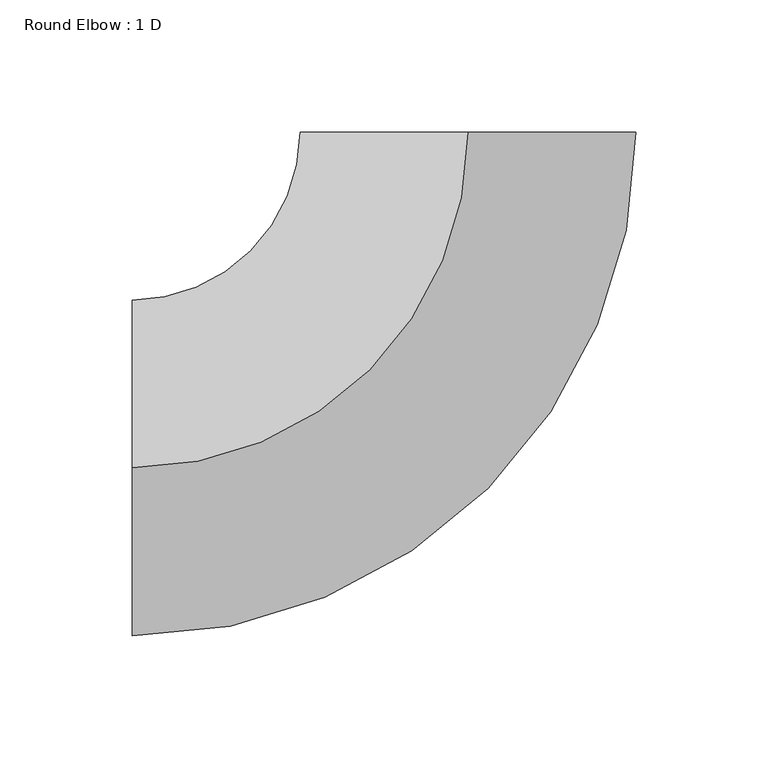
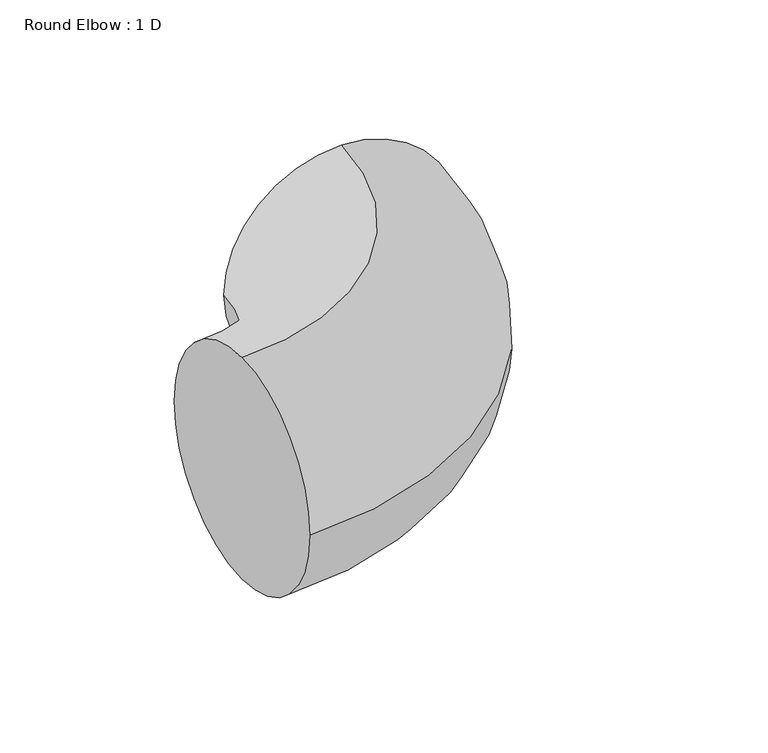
"""IFC4 building model written with IfcOpenShell, lengths in millimetres: duct fitting geometry, Round Elbow : 1 D."""

import ifcopenshell
import ifcopenshell.guid

model = None  # the IFC model being written
_history = None  # IfcOwnerHistory: only IFC2X3 demands one
_inside = {}  # id of a spatial element -> (the spatial element, [elements in it])
_under = {}  # id of a project, library or spatial element -> (it, [spatial elements below it])
_declared = {}  # id of a project -> (the project, [libraries it declares])
_typed = {}  # id of a type object -> (the type object, [elements of that type])
_made_of = {}  # id of a material, layer set ... -> (it, [elements and type objects made of it])


def new_model(schema):
    """Start an empty IFC model of exactly this schema.

    Asked for "IFC4X3", IfcOpenShell would pick the latest addendum, in which some entities
    have other attributes; the version numbers below select the first issue.
    IFC2X3 requires an IfcOwnerHistory on every rooted entity: one is made here for all.
    """
    global model, _history
    if schema == "IFC4X3":
        model = ifcopenshell.file(schema_version=(4, 3, 0, 0))
    else:
        model = ifcopenshell.file(schema=schema)
    _inside.clear()
    _under.clear()
    _declared.clear()
    _typed.clear()
    _made_of.clear()
    _history = None
    if model.schema == "IFC2X3":
        org = make("IfcOrganization", Name="unknown")
        user = make(
            "IfcPersonAndOrganization",
            ThePerson=make("IfcPerson", FamilyName="unknown"),
            TheOrganization=org,
        )
        app = make(
            "IfcApplication",
            ApplicationDeveloper=org,
            Version="unknown",
            ApplicationFullName="unknown",
            ApplicationIdentifier="unknown",
        )
        _history = make(
            "IfcOwnerHistory",
            OwningUser=user,
            OwningApplication=app,
            ChangeAction="ADDED",
            CreationDate=0,
        )
    return model


def make(cls, **values):
    """One entity of the class cls with the attributes given. An attribute that is None is left unset."""
    return model.create_entity(
        cls, **{name: value for name, value in values.items() if value is not None}
    )


def rooted(cls, **values):
    """An entity with a GlobalId (a new one), such as an element, a storey or a relation."""
    return make(cls, GlobalId=ifcopenshell.guid.new(), OwnerHistory=_history, **values)


def si_unit(unit_type, name, prefix=None):
    """IfcSIUnit, for example si_unit("LENGTHUNIT", "METRE", prefix="MILLI")."""
    return make("IfcSIUnit", UnitType=unit_type, Prefix=prefix, Name=name)


def assignment(units):
    """IfcUnitAssignment: the units of a project."""
    return None if units is None else make("IfcUnitAssignment", Units=units)


def point(xyz):
    """IfcCartesianPoint."""
    return None if xyz is None else make("IfcCartesianPoint", Coordinates=xyz)


def direction(xyz):
    """IfcDirection."""
    return None if xyz is None else make("IfcDirection", DirectionRatios=xyz)


def frame(location, z_axis=None, x_axis=None):
    """IfcAxis2Placement3D, a coordinate frame: its origin and axes. An axis left out is left unset."""
    return make(
        "IfcAxis2Placement3D",
        Location=point(location),
        Axis=direction(z_axis),
        RefDirection=direction(x_axis),
    )


def origin():
    """The frame at (0, 0, 0) with its axes left unset."""
    return frame((0.0, 0.0, 0.0))


def place(relative_to, where):
    """IfcLocalPlacement: puts the frame where relative to a parent placement (None: the world)."""
    return make(
        "IfcLocalPlacement", PlacementRelTo=relative_to, RelativePlacement=where
    )


def context(
    kind, dimensions, precision=None, world=None, true_north=None, identifier=None
):
    """IfcGeometricRepresentationContext, for example the 3D "Model" context."""
    return make(
        "IfcGeometricRepresentationContext",
        ContextIdentifier=identifier,
        ContextType=kind,
        CoordinateSpaceDimension=dimensions,
        Precision=precision,
        WorldCoordinateSystem=world,
        TrueNorth=true_north,
    )


def project(units=None, contexts=None):
    """IfcProject with its units and contexts."""
    return rooted(
        "IfcProject",
        Name="project",
        RepresentationContexts=contexts,
        UnitsInContext=assignment(units),
    )


def spatial(cls, under=None, at=None, **own):
    """A site, building, storey or space (cls), placed at a placement, below another one or the project."""
    s = rooted(cls, ObjectPlacement=at, **own)
    if under is not None:
        _under.setdefault(under.id(), (under, []))[1].append(s)
    return s


def circle_curve(where, radius):
    """IfcCircle in the frame where."""
    return make("IfcCircle", Position=where, Radius=radius)


def ellipse_curve(where, semi_axis1, semi_axis2):
    """IfcEllipse in the frame where."""
    return make(
        "IfcEllipse", Position=where, SemiAxis1=semi_axis1, SemiAxis2=semi_axis2
    )


def trimmed(basis, trim1, trim2, sense, master):
    """IfcTrimmedCurve: the piece of a basis curve between two trims."""
    return make(
        "IfcTrimmedCurve",
        BasisCurve=basis,
        Trim1=trim1,
        Trim2=trim2,
        SenseAgreement=sense,
        MasterRepresentation=master,
    )


def shape(context_of_items, identifier, shape_type, items):
    """IfcShapeRepresentation: the items that make up one representation, for example the "Body"."""
    return make(
        "IfcShapeRepresentation",
        ContextOfItems=context_of_items,
        RepresentationIdentifier=identifier,
        RepresentationType=shape_type,
        Items=items,
    )


def source(mapping_origin, context_of_items, identifier, shape_type, items):
    """IfcRepresentationMap: a shape defined once, which mapped items show again and again."""
    return make(
        "IfcRepresentationMap",
        MappingOrigin=mapping_origin,
        MappedRepresentation=shape(context_of_items, identifier, shape_type, items),
    )


def transform(
    local_origin,
    x_axis=None,
    y_axis=None,
    z_axis=None,
    scale=None,
    scale2=None,
    scale3=None,
    uniform=True,
):
    """IfcCartesianTransformationOperator3D, or its non-uniform kind. x_axis, y_axis, z_axis: its Axis1, 2, 3."""
    if uniform:
        return make(
            "IfcCartesianTransformationOperator3D",
            Axis1=direction(x_axis),
            Axis2=direction(y_axis),
            LocalOrigin=point(local_origin),
            Scale=scale,
            Axis3=direction(z_axis),
        )
    return make(
        "IfcCartesianTransformationOperator3DnonUniform",
        Axis1=direction(x_axis),
        Axis2=direction(y_axis),
        LocalOrigin=point(local_origin),
        Scale=scale,
        Axis3=direction(z_axis),
        Scale2=scale2,
        Scale3=scale3,
    )


def mapped(mapping_source, mapping_target):
    """IfcMappedItem: shows the shape of a source again, moved by a transform."""
    return make(
        "IfcMappedItem", MappingSource=mapping_source, MappingTarget=mapping_target
    )


def made_of(thing, what):
    """Note that an element or type object is made of a material, layer set ...; save() writes the relation."""
    if what is not None:
        _made_of.setdefault(what.id(), (what, []))[1].append(thing)
    return thing


def element(
    cls,
    number,
    at=None,
    inside=None,
    cuts=None,
    type_object=None,
    material=None,
    context=None,
    identifier="Body",
    shape_type=None,
    held_by="IfcProductDefinitionShape",
    body=None,
    shapes=None,
    **own,
):
    """One element of the class cls, such as IfcWall. Its Tag is "e" and its number.

    at: its placement. inside: the storey or other place that contains it. cuts: it is an
    opening in that element (IfcRelVoidsElement). A single representation is given by context,
    identifier, shape_type and body (its items); several are given by shapes. held_by: the class
    of the entity that holds the representations. save() writes the other relations.
    """
    e = rooted(cls, Tag="e%d" % number, ObjectPlacement=at, **own)
    if body is not None:
        shapes = [shape(context, identifier, shape_type, body)]
    if shapes is not None:
        e.Representation = make(held_by, Representations=shapes)
    if inside is not None:
        _inside.setdefault(inside.id(), (inside, []))[1].append(e)
    if cuts is not None:
        rooted(
            "IfcRelVoidsElement", RelatingBuildingElement=cuts, RelatedOpeningElement=e
        )
    if type_object is not None:
        _typed.setdefault(type_object.id(), (type_object, []))[1].append(e)
    return made_of(e, material)


def aggregate(whole, parts):
    """IfcRelAggregates: a whole, such as a stair, and the parts it consists of."""
    return rooted("IfcRelAggregates", RelatingObject=whole, RelatedObjects=parts)


def save(model, path):
    """Write the relations noted so far, then the file.

    IfcRelAggregates (storeys below a building ...), IfcRelContainedInSpatialStructure (elements
    in a storey), IfcRelDefinesByType, IfcRelAssociatesMaterial and IfcRelDeclares: one each for
    every whole, place, type object, material and project.
    """
    for whole, parts in _under.values():
        aggregate(whole, parts)
    for where, things in _inside.values():
        rooted(
            "IfcRelContainedInSpatialStructure",
            RelatedElements=things,
            RelatingStructure=where,
        )
    for kind, things in _typed.values():
        rooted("IfcRelDefinesByType", RelatedObjects=things, RelatingType=kind)
    for what, things in _made_of.values():
        rooted("IfcRelAssociatesMaterial", RelatedObjects=things, RelatingMaterial=what)
    for by, libraries in _declared.values():
        rooted("IfcRelDeclares", RelatingContext=by, RelatedDefinitions=libraries)
    model.write(path)


def plane_surface(at):
    """IfcPlane: the flat surface through the origin of the frame at, square to its z axis."""
    return make("IfcPlane", Position=at)


def revolved_surface(curve, axis_point, axis_direction):
    """IfcSurfaceOfRevolution: the curve turned about the line through axis_point along axis_direction."""
    return make(
        "IfcSurfaceOfRevolution",
        SweptCurve=make("IfcArbitraryOpenProfileDef", ProfileType="CURVE", Curve=curve),
        AxisPosition=make("IfcAxis1Placement", Location=point(axis_point), Axis=direction(axis_direction)),
    )


def advanced_brep(points, edges, surfaces, faces):
    """IfcAdvancedBrep: a solid bounded by faces that lie on surfaces and meet in shared edges.

    An edge is (start, end): straight between two places in points (the first is 0);
    or (start, end, curve); or (start, end, curve, False) where it runs against its curve.
    A face is (place in surfaces, loops), or (place, loops, False) where it looks against
    its surface's normal. A loop lists edges by number (the first is 1), with a minus sign
    where the edge is run from its end to its start. The first loop is the outer one.
    """
    corners = [point(p) for p in points]
    vertices = [make("IfcVertexPoint", VertexGeometry=c) for c in corners]
    made = []
    for start, end, *more in edges:
        made.append(
            make(
                "IfcEdgeCurve",
                EdgeStart=vertices[start],
                EdgeEnd=vertices[end],
                EdgeGeometry=more[0] if more else make("IfcPolyline", Points=[corners[start], corners[end]]),
                SameSense=more[1] if len(more) > 1 else True,
            )
        )
    hull = []
    for where, loops, *sense in faces:
        bounds = []
        for j, loop in enumerate(loops):
            ring = [make("IfcOrientedEdge", EdgeElement=made[abs(k) - 1], Orientation=k > 0) for k in loop]
            bounds.append(
                make(
                    "IfcFaceOuterBound" if j == 0 else "IfcFaceBound",
                    Bound=make("IfcEdgeLoop", EdgeList=ring),
                    Orientation=True,
                )
            )
        hull.append(make("IfcAdvancedFace", Bounds=bounds, FaceSurface=surfaces[where], SameSense=sense[0] if sense else True))
    return make("IfcAdvancedBrep", Outer=make("IfcClosedShell", CfsFaces=hull))


def round_elbow_1_d_c80420c1(model_context):
    return source(origin(), model_context, "Body", "AdvancedBrep", [
        advanced_brep(
        [(-127.0, 0.0, 63.5), (-127.0, 63.5, 0.0), (-127.0, 0.0, -63.5), (-127.0, -63.5, 0.0), (0.0, 127.0, 63.5), (63.5, 127.0, 0.0), (0.0, 127.0, -63.5), (-63.5, 127.0, 0.0)],
        [
            (0, 1, circle_curve(frame((-127.0, 0.0, 0.0), z_axis=(-1.0, 0.0, 0.0), x_axis=(0.0, 1.0, 0.0)), 63.5)),
            (1, 2, circle_curve(frame((-127.0, 0.0, 0.0), z_axis=(-1.0, 0.0, 0.0), x_axis=(0.0, 1.0, 0.0)), 63.5)),
            (2, 3, circle_curve(frame((-127.0, 0.0, 0.0), z_axis=(-1.0, 0.0, 0.0), x_axis=(0.0, 1.0, 0.0)), 63.5)),
            (3, 0, circle_curve(frame((-127.0, 0.0, 0.0), z_axis=(-1.0, 0.0, 0.0), x_axis=(0.0, 1.0, 0.0)), 63.5)),
            (4, 5, circle_curve(frame((0.0, 127.0, 0.0), z_axis=(0.0, 1.0, 0.0), x_axis=(-1.0, 0.0, 0.0)), 63.5)),
            (5, 6, circle_curve(frame((0.0, 127.0, 0.0), z_axis=(0.0, 1.0, 0.0), x_axis=(-1.0, 0.0, 0.0)), 63.5)),
            (6, 7, circle_curve(frame((0.0, 127.0, 0.0), z_axis=(0.0, 1.0, 0.0), x_axis=(-1.0, 0.0, 0.0)), 63.5)),
            (7, 4, circle_curve(frame((0.0, 127.0, 0.0), z_axis=(0.0, 1.0, 0.0), x_axis=(-1.0, 0.0, 0.0)), 63.5)),
            (7, 1, circle_curve(frame((-127.0, 127.0, 0.0), z_axis=(0.0, 0.0, -1.0), x_axis=(0.0, -1.0, 0.0)), 63.5)),
            (0, 4, circle_curve(frame((-127.0, 127.0, 63.5), z_axis=(0.0, 0.0, 1.0), x_axis=(0.0, -1.0, 0.0)), 127.0)),
            (6, 2, circle_curve(frame((-127.0, 127.0, -63.5), z_axis=(0.0, 0.0, -1.0), x_axis=(0.0, -1.0, 0.0)), 127.0)),
            (5, 3, circle_curve(frame((-127.0, 127.0, 0.0), z_axis=(0.0, 0.0, -1.0), x_axis=(0.0, -1.0, 0.0)), 190.5)),
        ],
        [
            plane_surface(frame((-127.0, 0.0, 0.0), z_axis=(-1.0, 0.0, 0.0), x_axis=(0.0, 0.0, 1.0))),
            plane_surface(frame((0.0, 127.0, 0.0), z_axis=(0.0, 1.0, 0.0), x_axis=(0.0, 0.0, 1.0))),
            revolved_surface(trimmed(ellipse_curve(frame((-127.0, 0.0, 0.0), z_axis=(-1.0, 0.0, 0.0), x_axis=(0.0, 1.0, 0.0)), 63.5, 63.5), [point((-127.0, 0.0, 63.5))], [point((-127.0, 63.5, 0.0))], True, "CARTESIAN"), (-127.0, 127.0, 0.0), (0.0, 0.0, 1.0)),
            revolved_surface(trimmed(ellipse_curve(frame((-127.0, 0.0, 0.0), z_axis=(-1.0, 0.0, 0.0), x_axis=(0.0, 1.0, 0.0)), 63.5, 63.5), [point((-127.0, 63.5, 0.0))], [point((-127.0, 0.0, -63.5))], True, "CARTESIAN"), (-127.0, 127.0, 0.0), (0.0, 0.0, 1.0)),
            revolved_surface(trimmed(ellipse_curve(frame((-127.0, 0.0, 0.0), z_axis=(-1.0, 0.0, 0.0), x_axis=(0.0, 1.0, 0.0)), 63.5, 63.5), [point((-127.0, 0.0, -63.5))], [point((-127.0, -63.5, 0.0))], True, "CARTESIAN"), (-127.0, 127.0, 0.0), (0.0, 0.0, 1.0)),
            revolved_surface(trimmed(ellipse_curve(frame((-127.0, 0.0, 0.0), z_axis=(-1.0, 0.0, 0.0), x_axis=(0.0, 1.0, 0.0)), 63.5, 63.5), [point((-127.0, -63.5, 0.0))], [point((-127.0, 0.0, 63.5))], True, "CARTESIAN"), (-127.0, 127.0, 0.0), (0.0, 0.0, 1.0)),
        ],
        [
            (0, [[1, 2, 3, 4]]),
            (1, [[5, 6, 7, 8]]),
            (2, [[9, -1, 10, -8]]),
            (3, [[11, -2, -9, -7]]),
            (4, [[12, -3, -11, -6]]),
            (5, [[-10, -4, -12, -5]]),
        ],
    ),
    ])


if __name__ == "__main__":
    model = new_model("IFC4")
    model_context = context("Model", 3, world=origin())
    ifc_project = project(units=[si_unit("LENGTHUNIT", "METRE", prefix="MILLI")], contexts=[model_context])
    site = spatial("IfcSite", under=ifc_project)
    building = spatial("IfcBuilding", under=site)
    placement = place(None, origin())
    round_elbow_1_d_shape = round_elbow_1_d_c80420c1(model_context)
    element("IfcDuctFitting", 1, ObjectType="Round Elbow : 1 D", at=placement, inside=building, context=model_context, shape_type="MappedRepresentation", body=[
        mapped(round_elbow_1_d_shape, transform((0.0, 0.0, 0.0), x_axis=(1.0, 0.0, 0.0), y_axis=(0.0, 1.0, 0.0), z_axis=(0.0, 0.0, 1.0))),
    ])
    save(model, "model.ifc")
